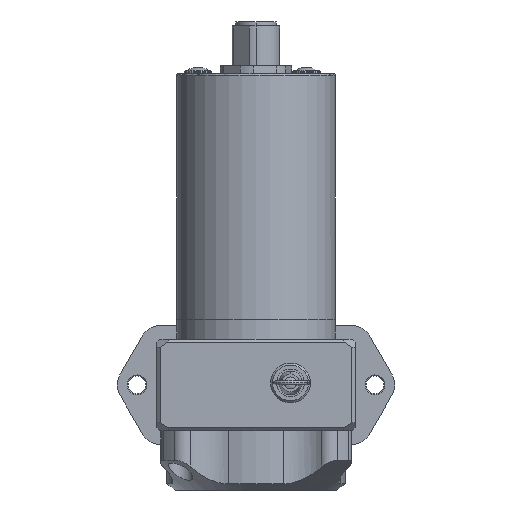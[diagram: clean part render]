
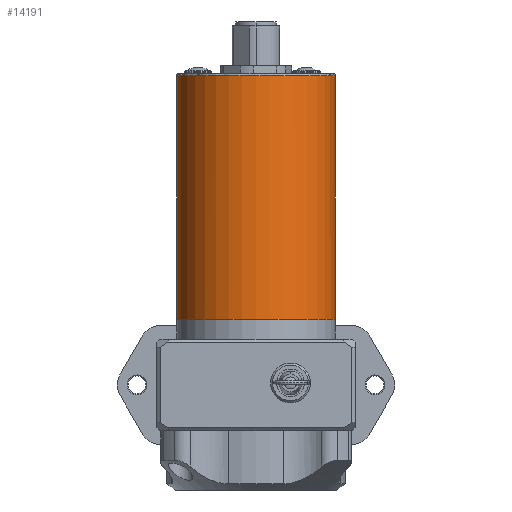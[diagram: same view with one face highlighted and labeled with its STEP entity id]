
A CAD part, front view. The second image highlights one B-rep face of the part: STEP entity #14191.
In plain terms, the highlighted cylindrical face has radius 20 mm (diameter 40 mm), a partial arc.
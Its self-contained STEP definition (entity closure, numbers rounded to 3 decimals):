
#5545 = CARTESIAN_POINT ( 'NONE',  ( 20., 0., 89.5 ) ) ;
#5546 = DIRECTION ( 'NONE',  ( -1., 0., 0. ) ) ;
#5547 = DIRECTION ( 'NONE',  ( 0., 0., -1. ) ) ;
#5548 = CARTESIAN_POINT ( 'NONE',  ( 0., 0., 89.5 ) ) ;
#5549 = AXIS2_PLACEMENT_3D ( 'NONE', #5548, #5547, #5546 ) ;
#5550 = CIRCLE ( 'NONE', #5549, 20. ) ;
#5551 = CARTESIAN_POINT ( 'NONE',  ( 20., -0.092, 89.5 ) ) ;
#5974 = CIRCLE ( 'NONE', #6025, 20. ) ;
#5993 = DIRECTION ( 'NONE',  ( -1., 0., 0. ) ) ;
#5994 = DIRECTION ( 'NONE',  ( 0., 0., 1. ) ) ;
#5995 = CARTESIAN_POINT ( 'NONE',  ( 0., 0., 28. ) ) ;
#5996 = AXIS2_PLACEMENT_3D ( 'NONE', #5995, #5994, #5993 ) ;
#5997 = CIRCLE ( 'NONE', #5996, 20. ) ;
#6000 = AXIS2_PLACEMENT_3D ( 'NONE', #6064, #6063, #6062 ) ;
#6001 = CYLINDRICAL_SURFACE ( 'NONE', #6000, 20. ) ;
#6016 = FACE_OUTER_BOUND ( 'NONE', #14203, .T. ) ;
#6017 = DIRECTION ( 'NONE',  ( 0., 0., -1. ) ) ;
#6018 = VECTOR ( 'NONE', #6017, 1000. ) ;
#6019 = CARTESIAN_POINT ( 'NONE',  ( 20., 0., 28. ) ) ;
#6020 = LINE ( 'NONE', #6019, #6018 ) ;
#6022 = DIRECTION ( 'NONE',  ( -1., 0., 0. ) ) ;
#6023 = DIRECTION ( 'NONE',  ( 0., 0., -1. ) ) ;
#6024 = CARTESIAN_POINT ( 'NONE',  ( 0., 0., 89.5 ) ) ;
#6025 = AXIS2_PLACEMENT_3D ( 'NONE', #6024, #6023, #6022 ) ;
#6062 = DIRECTION ( 'NONE',  ( -1., 0., 0. ) ) ;
#6063 = DIRECTION ( 'NONE',  ( 0., 0., -1. ) ) ;
#6064 = CARTESIAN_POINT ( 'NONE',  ( 0., 0., 28. ) ) ;
#6114 = DIRECTION ( 'NONE',  ( 0., 0., -1. ) ) ;
#6115 = VECTOR ( 'NONE', #6114, 1000. ) ;
#6116 = CARTESIAN_POINT ( 'NONE',  ( -20., 0., 28. ) ) ;
#6117 = LINE ( 'NONE', #6116, #6115 ) ;
#6162 = CARTESIAN_POINT ( 'NONE',  ( -20., 0., 89.5 ) ) ;
#6164 = CARTESIAN_POINT ( 'NONE',  ( -20., 0., 28. ) ) ;
#6258 = CARTESIAN_POINT ( 'NONE',  ( 20., 0., 28. ) ) ;
#14143 = VERTEX_POINT ( 'NONE', #5551 ) ;
#14145 = EDGE_CURVE ( 'NONE', #14146, #14143, #5550, .T. ) ;
#14146 = VERTEX_POINT ( 'NONE', #5545 ) ;
#14181 = ORIENTED_EDGE ( 'NONE', *, *, #14182, .T. ) ;
#14182 = EDGE_CURVE ( 'NONE', #14233, #14243, #5997, .T. ) ;
#14185 = ORIENTED_EDGE ( 'NONE', *, *, #14202, .T. ) ;
#14186 = ORIENTED_EDGE ( 'NONE', *, *, #14145, .T. ) ;
#14187 = ORIENTED_EDGE ( 'NONE', *, *, #14188, .T. ) ;
#14188 = EDGE_CURVE ( 'NONE', #14143, #14205, #5974, .T. ) ;
#14190 = EDGE_CURVE ( 'NONE', #14146, #14243, #6020, .T. ) ;
#14191 = ADVANCED_FACE ( 'NONE', ( #6016 ), #6001, .T. ) ;
#14192 = ORIENTED_EDGE ( 'NONE', *, *, #14190, .F. ) ;
#14202 = EDGE_CURVE ( 'NONE', #14205, #14233, #6117, .T. ) ;
#14203 = EDGE_LOOP ( 'NONE', ( #14192, #14186, #14187, #14185, #14181 ) ) ;
#14205 = VERTEX_POINT ( 'NONE', #6162 ) ;
#14233 = VERTEX_POINT ( 'NONE', #6164 ) ;
#14243 = VERTEX_POINT ( 'NONE', #6258 ) ;
